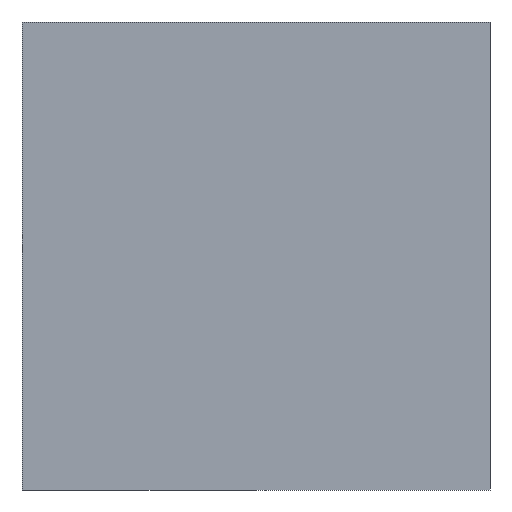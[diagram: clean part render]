
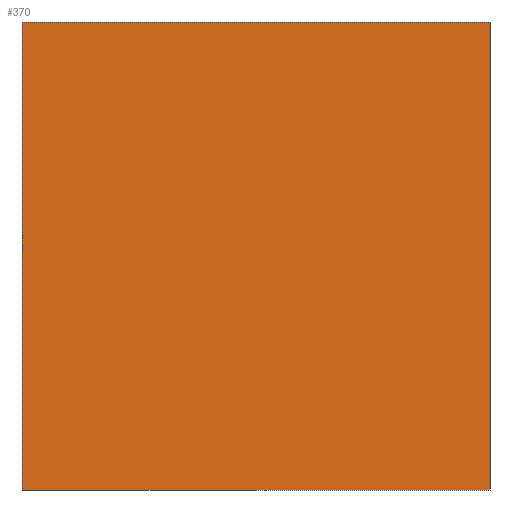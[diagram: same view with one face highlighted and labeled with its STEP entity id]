
A CAD part, left-side view. The second image highlights one B-rep face of the part: STEP entity #370.
In plain terms, the highlighted planar face has unit normal (-1, 0, 0).
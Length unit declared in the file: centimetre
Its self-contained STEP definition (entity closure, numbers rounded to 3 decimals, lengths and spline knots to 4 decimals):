
#4 = EDGE_CURVE ( 'NONE', #290, #25, #374, .T. ) ;
#13 = CARTESIAN_POINT ( 'NONE',  ( 0., 1000., 1000. ) ) ;
#16 = DIRECTION ( 'NONE',  ( 0., -1., 0. ) ) ;
#25 = VERTEX_POINT ( 'NONE', #180 ) ;
#26 = AXIS2_PLACEMENT_3D ( 'NONE', #13, #498, #223 ) ;
#42 = EDGE_CURVE ( 'NONE', #91, #485, #463, .T. ) ;
#57 = DIRECTION ( 'NONE',  ( 0., 0., -1. ) ) ;
#73 = VECTOR ( 'NONE', #16, 100. ) ;
#84 = EDGE_LOOP ( 'NONE', ( #89, #282, #506, #252 ) ) ;
#89 = ORIENTED_EDGE ( 'NONE', *, *, #102, .T. ) ;
#90 = VECTOR ( 'NONE', #333, 100. ) ;
#91 = VERTEX_POINT ( 'NONE', #190 ) ;
#94 = LINE ( 'NONE', #254, #73 ) ;
#102 = EDGE_CURVE ( 'NONE', #25, #485, #341, .T. ) ;
#106 = CARTESIAN_POINT ( 'NONE',  ( 0., 0., 1000. ) ) ;
#119 = EDGE_CURVE ( 'NONE', #290, #91, #94, .T. ) ;
#122 = CARTESIAN_POINT ( 'NONE',  ( 0., 1000., 1000. ) ) ;
#123 = PLANE ( 'NONE',  #26 ) ;
#180 = CARTESIAN_POINT ( 'NONE',  ( 0., 1000., 0. ) ) ;
#190 = CARTESIAN_POINT ( 'NONE',  ( 0., 0., 1000. ) ) ;
#223 = DIRECTION ( 'NONE',  ( 0., 0., -1. ) ) ;
#252 = ORIENTED_EDGE ( 'NONE', *, *, #4, .T. ) ;
#254 = CARTESIAN_POINT ( 'NONE',  ( 0., 1000., 1000. ) ) ;
#282 = ORIENTED_EDGE ( 'NONE', *, *, #42, .F. ) ;
#289 = VECTOR ( 'NONE', #57, 100. ) ;
#290 = VERTEX_POINT ( 'NONE', #122 ) ;
#301 = CARTESIAN_POINT ( 'NONE',  ( 0., 1000., 0. ) ) ;
#333 = DIRECTION ( 'NONE',  ( 0., 0., -1. ) ) ;
#341 = LINE ( 'NONE', #301, #447 ) ;
#348 = DIRECTION ( 'NONE',  ( 0., -1., 0. ) ) ;
#368 = CARTESIAN_POINT ( 'NONE',  ( 0., 0., 0. ) ) ;
#370 = ADVANCED_FACE ( 'NONE', ( #481 ), #123, .F. ) ;
#374 = LINE ( 'NONE', #410, #90 ) ;
#410 = CARTESIAN_POINT ( 'NONE',  ( 0., 1000., 1000. ) ) ;
#447 = VECTOR ( 'NONE', #348, 100. ) ;
#463 = LINE ( 'NONE', #106, #289 ) ;
#481 = FACE_OUTER_BOUND ( 'NONE', #84, .T. ) ;
#485 = VERTEX_POINT ( 'NONE', #368 ) ;
#498 = DIRECTION ( 'NONE',  ( 1., 0., 0. ) ) ;
#506 = ORIENTED_EDGE ( 'NONE', *, *, #119, .F. ) ;
